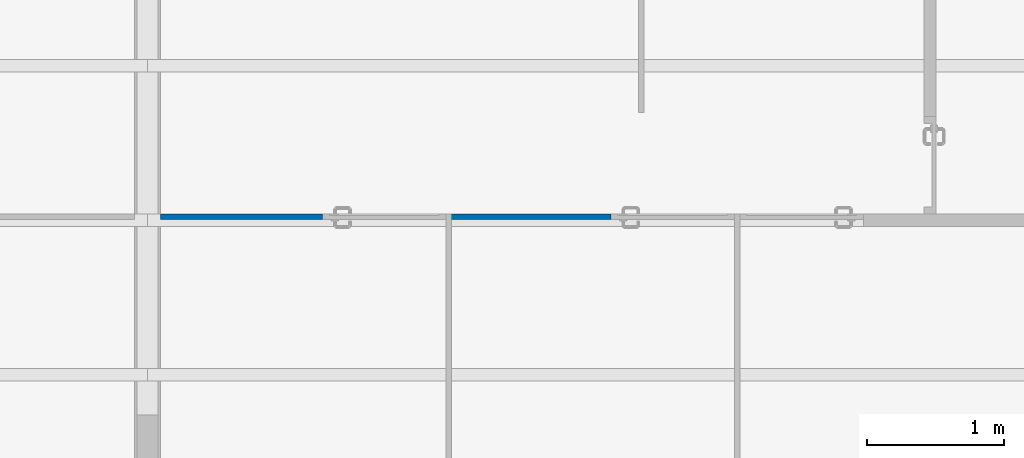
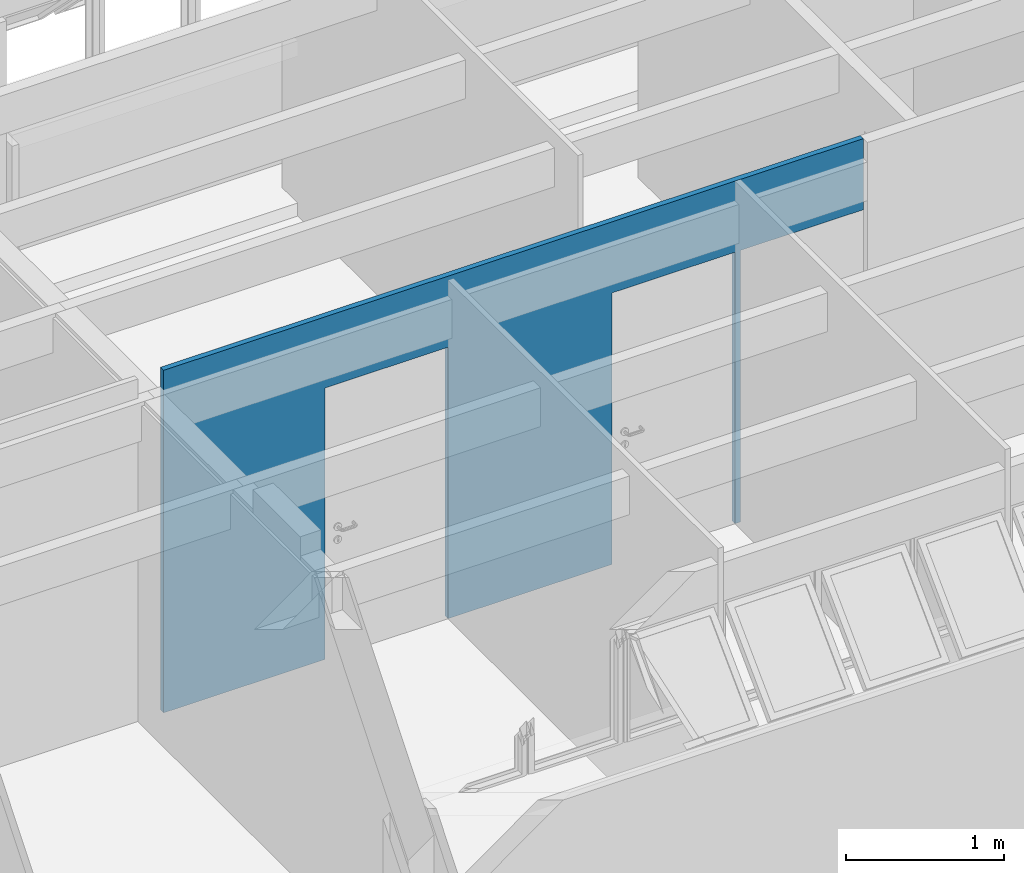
# One storey, part 23 of 41: 1 wall, 3 openings.
"""IFC4 building model written with IfcOpenShell, lengths in millimetres."""

from ifc_helpers import new_model, entity, si_unit, converted_unit, derived_unit, direction, frame, origin_with_axes, origin_2d_with_axis, place, context, subcontext, project, spatial, line, indexed_curve, rectangle, outline, extrude, material, layer, layer_set, layer_usage, type_object, element, save


model = new_model("IFC4")

# Units and contexts
model_context = context("Model", 3, precision=0.01, world=origin_with_axes(), true_north=direction((0.0, 1.0)))
body_context = subcontext(model_context, "Body", "Model", "MODEL_VIEW")
ifc_project = project(units=[si_unit("LENGTHUNIT", "METRE", prefix="MILLI"), si_unit("AREAUNIT", "SQUARE_METRE"), si_unit("VOLUMEUNIT", "CUBIC_METRE"), converted_unit("PLANEANGLEUNIT", "DEGREE", entity("IfcPlaneAngleMeasure", 0.0174532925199), si_unit("PLANEANGLEUNIT", "RADIAN"), dimensions=[0, 0, 0, 0, 0, 0, 0]), converted_unit("TIMEUNIT", "Year", entity("IfcTimeMeasure", 31556926.0), si_unit("TIMEUNIT", "SECOND"), dimensions=[0, 0, 1, 0, 0, 0, 0]), si_unit("MASSUNIT", "GRAM", prefix="KILO"), si_unit("THERMODYNAMICTEMPERATUREUNIT", "DEGREE_CELSIUS"), si_unit("LUMINOUSINTENSITYUNIT", "LUMEN"), si_unit("ENERGYUNIT", "JOULE", prefix="MEGA"), derived_unit("THERMALCONDUCTANCEUNIT", [(si_unit("POWERUNIT", "WATT"), 1), (si_unit("LENGTHUNIT", "METRE"), -1), (si_unit("THERMODYNAMICTEMPERATUREUNIT", "KELVIN"), -1)]), derived_unit("SPECIFICHEATCAPACITYUNIT", [(si_unit("ENERGYUNIT", "JOULE"), 1), (si_unit("MASSUNIT", "GRAM", prefix="KILO"), -1), (si_unit("THERMODYNAMICTEMPERATUREUNIT", "KELVIN"), -1)]), derived_unit("MASSDENSITYUNIT", [(si_unit("MASSUNIT", "GRAM", prefix="KILO"), 1), (si_unit("VOLUMEUNIT", "CUBIC_METRE"), -1)])], contexts=[model_context])

# Site, building, storey
site_placement = place(None, origin_with_axes())
site = spatial("IfcSite", under=ifc_project, at=site_placement, Name="Local", CompositionType="ELEMENT")
building_placement = place(site_placement, origin_with_axes())
building = spatial("IfcBuilding", under=site, at=building_placement, Name="Construção", CompositionType="ELEMENT")
storey_placement = place(building_placement, frame((0.0, 0.0, 2650.0), z_axis=(0.0, 0.0, 1.0), x_axis=(1.0, 0.0, 0.0)))
storey = spatial("IfcBuildingStorey", under=building, at=storey_placement, Name="Segundo Pavimento", CompositionType="ELEMENT", Elevation=2650.0)

# Wall, openings
ifc_material = material(Name="GENÉRICO - VEDAÇÃO EXTERNA")
ifc_layer = layer(ifc_material, 40.0, ventilated="UNKNOWN", Name="GENÉRICO - VEDAÇÃO EXTERNA")
ifc_layer_set = layer_set([ifc_layer], Name="GENÉRICO - VEDAÇÃO EXTERNA 40")
ifc_layer_usage = layer_usage(ifc_layer_set, "AXIS2", "POSITIVE", 0.0)
wall_type = type_object("IfcWallType", Name="GENÉRICO - VEDAÇÃO EXTERNA 40", PredefinedType="NOTDEFINED")
wall_placement = place(storey_placement, frame((12600.0, 3765.2195667, 0.0), z_axis=(0.0, 0.0, 1.0), x_axis=(-0.99999999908, -4.28841203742e-05, 0.0)))
wall = element("IfcWall", 1, at=wall_placement, inside=storey, type_object=wall_type, material=ifc_layer_usage, Name="APTO6-PAREDE-006", PredefinedType="NOTDEFINED", context=body_context, shape_type="SweptSolid", body=[
    extrude(outline(indexed_curve([(0.0, 0.0), (5120.00000471, 0.0), (5120.00172007, 40.0), (0.000857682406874, 40.0)], segments=[line(1, 2, 3, 4, 1)])), origin_with_axes(), (0.0, 0.0, 1.0), 2650.0),
])
opening_1_placement = place(wall_placement, frame((1390.00000471, 0.0, 0.0), z_axis=(0.0, 0.0, 1.0), x_axis=(1.0, 0.0, 0.0)))
element("IfcOpeningElement", 2, at=opening_1_placement, cuts=wall, Name="APTO6-PORTA-002", context=body_context, shape_type="SweptSolid", body=[
    extrude(rectangle(XDim=900.0, YDim=2100.0, at=origin_2d_with_axis()), frame((0.0, 40.0, 1050.0), z_axis=(0.0, 1.0, 0.0), x_axis=(-1.0, 0.0, 0.0)), (0.0, 0.0, -1.0), 120.0),
])
opening_2_placement = place(wall_placement, frame((450.000004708, 0.0, 0.0), z_axis=(0.0, 0.0, 1.0), x_axis=(1.0, 0.0, 0.0)))
element("IfcOpeningElement", 3, at=opening_2_placement, cuts=wall, Name="APTO6-PORTA-001", context=body_context, shape_type="SweptSolid", body=[
    extrude(rectangle(XDim=900.0, YDim=2100.0, at=origin_2d_with_axis()), frame((0.0, 40.0, 1050.0), z_axis=(0.0, -1.0, 0.0), x_axis=(1.0, 0.0, 0.0)), (0.0, 0.0, 1.0), 120.0),
])
opening_3_placement = place(wall_placement, frame((3490.00000471, 0.0, 0.0), z_axis=(0.0, 0.0, 1.0), x_axis=(1.0, 0.0, 0.0)))
element("IfcOpeningElement", 4, at=opening_3_placement, cuts=wall, Name="APTO6-PORTA-000", context=body_context, shape_type="SweptSolid", body=[
    extrude(rectangle(XDim=900.0, YDim=2100.0, at=origin_2d_with_axis()), frame((0.0, 40.0, 1050.0), z_axis=(0.0, 1.0, 0.0), x_axis=(-1.0, 0.0, 0.0)), (0.0, 0.0, -1.0), 120.0),
])

save(model, "model.ifc")
